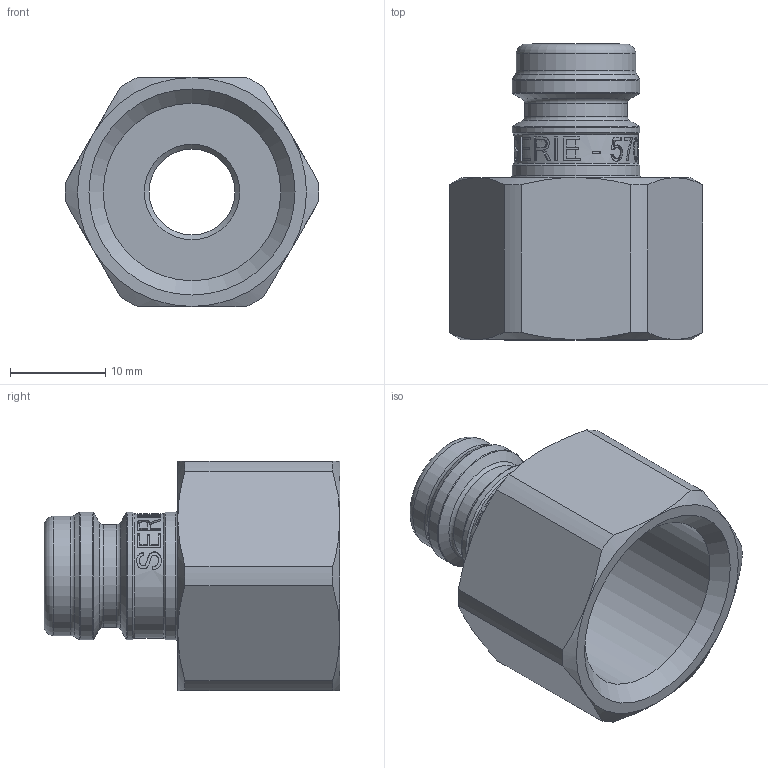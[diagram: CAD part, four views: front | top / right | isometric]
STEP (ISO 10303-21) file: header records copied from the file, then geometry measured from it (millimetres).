
FILE_DESCRIPTION (( 'STEP AP214' ), '1' );
FILE_NAME ('0057200010500A.STEP', '2013-07-31T13:02:07', ( 'ST01' ), ( '' ), 'SwSTEP 2.0', 'SolidWorks 2012', '' );
FILE_SCHEMA (( 'AUTOMOTIVE_DESIGN' ));
Length unit declared in the file: millimetre
Products named in the file (1): 0057200010500A
Bounding box: 26.59 x 31 x 24 mm (x, y, z)
Volume: 4969.9 mm3; surface area: 4069.4 mm2
Topology: 1 solids, 1 shells, 166 faces, 429 edges, 277 vertices
Faces by surface type: plane 61, bspline 50, cylinder 27, cone 20, torus 8
Full cylindrical faces by diameter (mm): 9 x1, 10.8 x1, 12.5 x1, 13 x1, 13.4 x3, 18.6 x1
Entity records: 11345 total; most frequent: CARTESIAN_POINT 7878, ORIENTED_EDGE 780, DIRECTION 547, EDGE_CURVE 390, VERTEX_POINT 265, AXIS2_PLACEMENT_3D 224, EDGE_LOOP 203, B_SPLINE_CURVE_WITH_KNOTS 182
